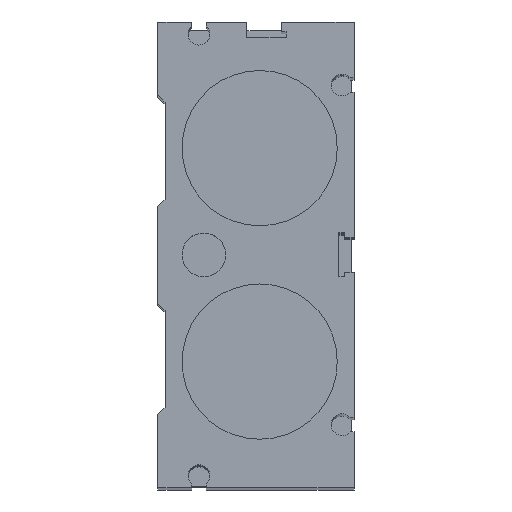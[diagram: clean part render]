
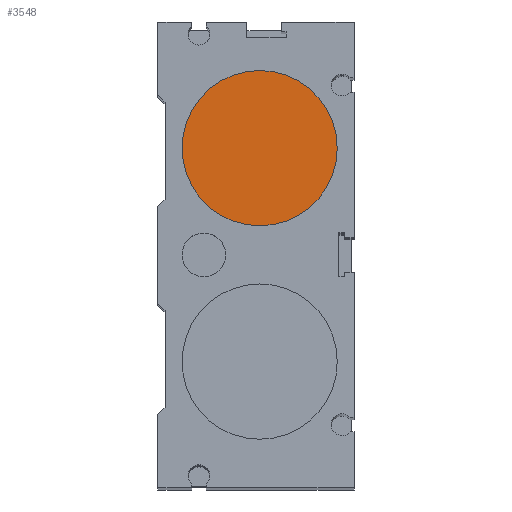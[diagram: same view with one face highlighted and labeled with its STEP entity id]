
A CAD part, top view. The second image highlights one B-rep face of the part: STEP entity #3548.
In plain terms, the highlighted planar face has unit normal (0, 0, 1).
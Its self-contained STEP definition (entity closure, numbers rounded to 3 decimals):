
#3517=CARTESIAN_POINT('',(16.0,22.0,488.0));
#3518=VERTEX_POINT('',#3517);
#3519=CARTESIAN_POINT('',(0.,22.0,488.0));
#3520=DIRECTION('',(0.0,0.0,1.0));
#3521=DIRECTION('',(-1.0,0.0,0.0));
#3522=AXIS2_PLACEMENT_3D('',#3519,#3520,#3521);
#3523=CIRCLE('',#3522,16.0);
#3524=EDGE_CURVE('',#3518,#3518,#3523,.T.);
#3540=CARTESIAN_POINT('',(0.,22.0,488.0));
#3541=DIRECTION('',(0.0,0.0,-1.0));
#3542=DIRECTION('',(-1.0,0.0,0.0));
#3543=AXIS2_PLACEMENT_3D('',#3540,#3541,#3542);
#3544=PLANE('',#3543);
#3545=ORIENTED_EDGE('',*,*,#3524,.T.);
#3546=EDGE_LOOP('',(#3545));
#3547=FACE_OUTER_BOUND('',#3546,.T.);
#3548=ADVANCED_FACE('',(#3547),#3544,.F.);
